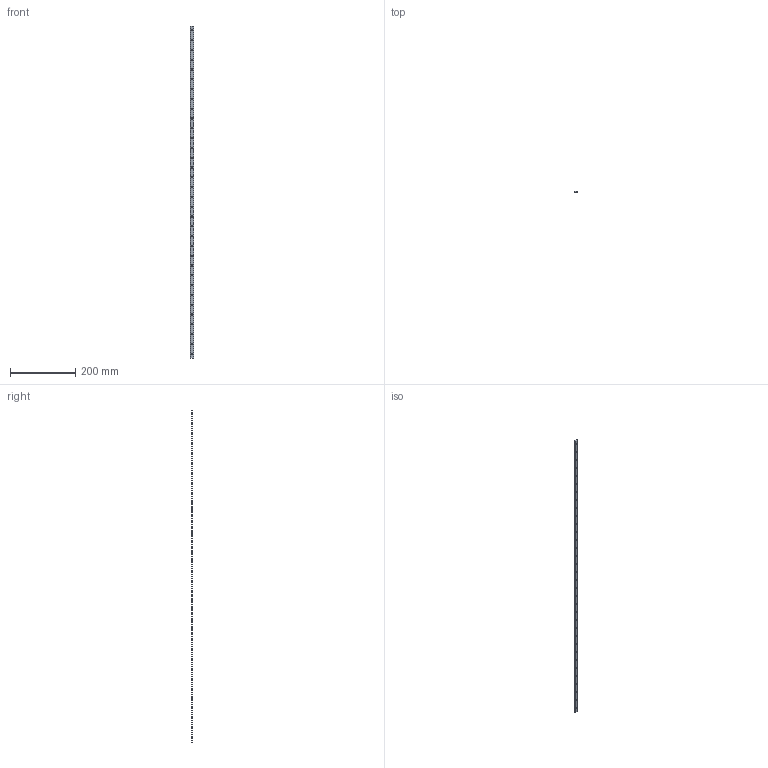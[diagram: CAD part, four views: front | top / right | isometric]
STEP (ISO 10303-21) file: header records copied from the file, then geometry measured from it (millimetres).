
FILE_DESCRIPTION(('STEP AP203'),'1');
FILE_NAME('flat_slide_ssms121016.stp','2021-02-19T08:27:18',('TraceParts'),('TraceParts S.A.'),'Spatial InterOp 3D',' ',' ');
FILE_SCHEMA(('CONFIG_CONTROL_DESIGN'));
Length unit declared in the file: millimetre
Products named in the file (1): 1
Bounding box: 11.81 x 3 x 1016 mm (x, y, z)
Volume: 30503.7 mm3; surface area: 27001.6 mm2
Topology: 1 solids, 1 shells, 80 faces, 234 edges, 156 vertices
Faces by surface type: cylinder 72, plane 8
Entity records: 2922 total; most frequent: DIRECTION 540, CARTESIAN_POINT 471, ORIENTED_EDGE 468, EDGE_CURVE 234, AXIS2_PLACEMENT_3D 225, VERTEX_POINT 156, EDGE_LOOP 148, CIRCLE 144
